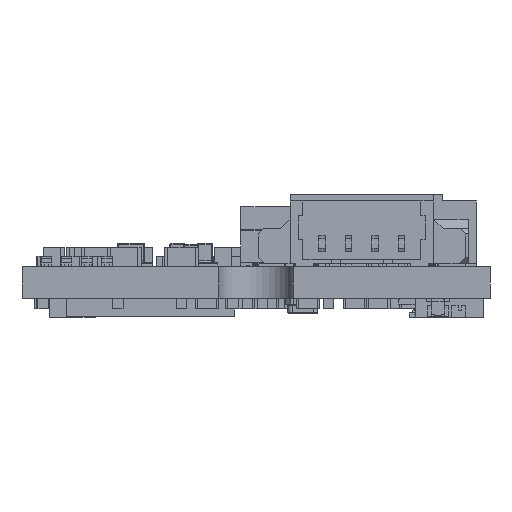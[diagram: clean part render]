
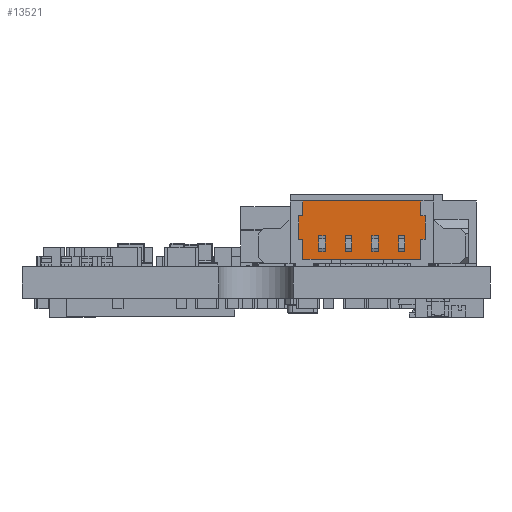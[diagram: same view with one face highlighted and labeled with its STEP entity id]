
A CAD part, front view. The second image highlights one B-rep face of the part: STEP entity #13521.
In plain terms, the highlighted planar face has unit normal (0, -1, 0).
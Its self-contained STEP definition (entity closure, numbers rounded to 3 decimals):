
#13521 = ADVANCED_FACE('',(#13522,#13556,#13590,#13688,#13722),#13756,
  .T.);
#13522 = FACE_BOUND('',#13523,.T.);
#13523 = EDGE_LOOP('',(#13524,#13534,#13542,#13550));
#13524 = ORIENTED_EDGE('',*,*,#13525,.T.);
#13525 = EDGE_CURVE('',#13526,#13528,#13530,.T.);
#13526 = VERTEX_POINT('',#13527);
#13527 = CARTESIAN_POINT('',(0.775,0.9,-0.975));
#13528 = VERTEX_POINT('',#13529);
#13529 = CARTESIAN_POINT('',(0.475,0.9,-0.975));
#13530 = LINE('',#13531,#13532);
#13531 = CARTESIAN_POINT('',(0.775,0.9,-0.975));
#13532 = VECTOR('',#13533,1.);
#13533 = DIRECTION('',(-1.,0.,0.));
#13534 = ORIENTED_EDGE('',*,*,#13535,.T.);
#13535 = EDGE_CURVE('',#13528,#13536,#13538,.T.);
#13536 = VERTEX_POINT('',#13537);
#13537 = CARTESIAN_POINT('',(0.475,0.9,-0.225));
#13538 = LINE('',#13539,#13540);
#13539 = CARTESIAN_POINT('',(0.475,0.9,-0.975));
#13540 = VECTOR('',#13541,1.);
#13541 = DIRECTION('',(0.,0.,1.));
#13542 = ORIENTED_EDGE('',*,*,#13543,.T.);
#13543 = EDGE_CURVE('',#13536,#13544,#13546,.T.);
#13544 = VERTEX_POINT('',#13545);
#13545 = CARTESIAN_POINT('',(0.775,0.9,-0.225));
#13546 = LINE('',#13547,#13548);
#13547 = CARTESIAN_POINT('',(0.475,0.9,-0.225));
#13548 = VECTOR('',#13549,1.);
#13549 = DIRECTION('',(1.,0.,0.));
#13550 = ORIENTED_EDGE('',*,*,#13551,.T.);
#13551 = EDGE_CURVE('',#13544,#13526,#13552,.T.);
#13552 = LINE('',#13553,#13554);
#13553 = CARTESIAN_POINT('',(0.775,0.9,-0.225));
#13554 = VECTOR('',#13555,1.);
#13555 = DIRECTION('',(0.,0.,-1.));
#13556 = FACE_BOUND('',#13557,.T.);
#13557 = EDGE_LOOP('',(#13558,#13568,#13576,#13584));
#13558 = ORIENTED_EDGE('',*,*,#13559,.T.);
#13559 = EDGE_CURVE('',#13560,#13562,#13564,.T.);
#13560 = VERTEX_POINT('',#13561);
#13561 = CARTESIAN_POINT('',(-1.725,0.9,-0.975));
#13562 = VERTEX_POINT('',#13563);
#13563 = CARTESIAN_POINT('',(-2.025,0.9,-0.975));
#13564 = LINE('',#13565,#13566);
#13565 = CARTESIAN_POINT('',(-1.725,0.9,-0.975));
#13566 = VECTOR('',#13567,1.);
#13567 = DIRECTION('',(-1.,0.,0.));
#13568 = ORIENTED_EDGE('',*,*,#13569,.T.);
#13569 = EDGE_CURVE('',#13562,#13570,#13572,.T.);
#13570 = VERTEX_POINT('',#13571);
#13571 = CARTESIAN_POINT('',(-2.025,0.9,-0.225));
#13572 = LINE('',#13573,#13574);
#13573 = CARTESIAN_POINT('',(-2.025,0.9,-0.975));
#13574 = VECTOR('',#13575,1.);
#13575 = DIRECTION('',(0.,0.,1.));
#13576 = ORIENTED_EDGE('',*,*,#13577,.T.);
#13577 = EDGE_CURVE('',#13570,#13578,#13580,.T.);
#13578 = VERTEX_POINT('',#13579);
#13579 = CARTESIAN_POINT('',(-1.725,0.9,-0.225));
#13580 = LINE('',#13581,#13582);
#13581 = CARTESIAN_POINT('',(-2.025,0.9,-0.225));
#13582 = VECTOR('',#13583,1.);
#13583 = DIRECTION('',(1.,0.,0.));
#13584 = ORIENTED_EDGE('',*,*,#13585,.T.);
#13585 = EDGE_CURVE('',#13578,#13560,#13586,.T.);
#13586 = LINE('',#13587,#13588);
#13587 = CARTESIAN_POINT('',(-1.725,0.9,-0.225));
#13588 = VECTOR('',#13589,1.);
#13589 = DIRECTION('',(0.,0.,-1.));
#13590 = FACE_BOUND('',#13591,.T.);
#13591 = EDGE_LOOP('',(#13592,#13602,#13610,#13618,#13626,#13634,#13642,
    #13650,#13658,#13666,#13674,#13682));
#13592 = ORIENTED_EDGE('',*,*,#13593,.T.);
#13593 = EDGE_CURVE('',#13594,#13596,#13598,.T.);
#13594 = VERTEX_POINT('',#13595);
#13595 = CARTESIAN_POINT('',(2.775,0.9,1.4));
#13596 = VERTEX_POINT('',#13597);
#13597 = CARTESIAN_POINT('',(-2.775,0.9,1.4));
#13598 = LINE('',#13599,#13600);
#13599 = CARTESIAN_POINT('',(2.775,0.9,1.4));
#13600 = VECTOR('',#13601,1.);
#13601 = DIRECTION('',(-1.,0.,0.));
#13602 = ORIENTED_EDGE('',*,*,#13603,.T.);
#13603 = EDGE_CURVE('',#13596,#13604,#13606,.T.);
#13604 = VERTEX_POINT('',#13605);
#13605 = CARTESIAN_POINT('',(-2.775,0.9,0.7));
#13606 = LINE('',#13607,#13608);
#13607 = CARTESIAN_POINT('',(-2.775,0.9,1.4));
#13608 = VECTOR('',#13609,1.);
#13609 = DIRECTION('',(0.,0.,-1.));
#13610 = ORIENTED_EDGE('',*,*,#13611,.T.);
#13611 = EDGE_CURVE('',#13604,#13612,#13614,.T.);
#13612 = VERTEX_POINT('',#13613);
#13613 = CARTESIAN_POINT('',(-2.975,0.9,0.7));
#13614 = LINE('',#13615,#13616);
#13615 = CARTESIAN_POINT('',(-2.775,0.9,0.7));
#13616 = VECTOR('',#13617,1.);
#13617 = DIRECTION('',(-1.,0.,0.));
#13618 = ORIENTED_EDGE('',*,*,#13619,.T.);
#13619 = EDGE_CURVE('',#13612,#13620,#13622,.T.);
#13620 = VERTEX_POINT('',#13621);
#13621 = CARTESIAN_POINT('',(-2.975,0.9,-0.4));
#13622 = LINE('',#13623,#13624);
#13623 = CARTESIAN_POINT('',(-2.975,0.9,0.7));
#13624 = VECTOR('',#13625,1.);
#13625 = DIRECTION('',(0.,0.,-1.));
#13626 = ORIENTED_EDGE('',*,*,#13627,.T.);
#13627 = EDGE_CURVE('',#13620,#13628,#13630,.T.);
#13628 = VERTEX_POINT('',#13629);
#13629 = CARTESIAN_POINT('',(-2.775,0.9,-0.4));
#13630 = LINE('',#13631,#13632);
#13631 = CARTESIAN_POINT('',(-2.975,0.9,-0.4));
#13632 = VECTOR('',#13633,1.);
#13633 = DIRECTION('',(1.,0.,0.));
#13634 = ORIENTED_EDGE('',*,*,#13635,.T.);
#13635 = EDGE_CURVE('',#13628,#13636,#13638,.T.);
#13636 = VERTEX_POINT('',#13637);
#13637 = CARTESIAN_POINT('',(-2.775,0.9,-1.35));
#13638 = LINE('',#13639,#13640);
#13639 = CARTESIAN_POINT('',(-2.775,0.9,-0.4));
#13640 = VECTOR('',#13641,1.);
#13641 = DIRECTION('',(0.,0.,-1.));
#13642 = ORIENTED_EDGE('',*,*,#13643,.T.);
#13643 = EDGE_CURVE('',#13636,#13644,#13646,.T.);
#13644 = VERTEX_POINT('',#13645);
#13645 = CARTESIAN_POINT('',(2.775,0.9,-1.35));
#13646 = LINE('',#13647,#13648);
#13647 = CARTESIAN_POINT('',(-2.775,0.9,-1.35));
#13648 = VECTOR('',#13649,1.);
#13649 = DIRECTION('',(1.,0.,0.));
#13650 = ORIENTED_EDGE('',*,*,#13651,.T.);
#13651 = EDGE_CURVE('',#13644,#13652,#13654,.T.);
#13652 = VERTEX_POINT('',#13653);
#13653 = CARTESIAN_POINT('',(2.775,0.9,-0.4));
#13654 = LINE('',#13655,#13656);
#13655 = CARTESIAN_POINT('',(2.775,0.9,-1.35));
#13656 = VECTOR('',#13657,1.);
#13657 = DIRECTION('',(0.,0.,1.));
#13658 = ORIENTED_EDGE('',*,*,#13659,.T.);
#13659 = EDGE_CURVE('',#13652,#13660,#13662,.T.);
#13660 = VERTEX_POINT('',#13661);
#13661 = CARTESIAN_POINT('',(2.975,0.9,-0.4));
#13662 = LINE('',#13663,#13664);
#13663 = CARTESIAN_POINT('',(2.775,0.9,-0.4));
#13664 = VECTOR('',#13665,1.);
#13665 = DIRECTION('',(1.,0.,0.));
#13666 = ORIENTED_EDGE('',*,*,#13667,.T.);
#13667 = EDGE_CURVE('',#13660,#13668,#13670,.T.);
#13668 = VERTEX_POINT('',#13669);
#13669 = CARTESIAN_POINT('',(2.975,0.9,0.7));
#13670 = LINE('',#13671,#13672);
#13671 = CARTESIAN_POINT('',(2.975,0.9,-0.4));
#13672 = VECTOR('',#13673,1.);
#13673 = DIRECTION('',(0.,0.,1.));
#13674 = ORIENTED_EDGE('',*,*,#13675,.T.);
#13675 = EDGE_CURVE('',#13668,#13676,#13678,.T.);
#13676 = VERTEX_POINT('',#13677);
#13677 = CARTESIAN_POINT('',(2.775,0.9,0.7));
#13678 = LINE('',#13679,#13680);
#13679 = CARTESIAN_POINT('',(2.975,0.9,0.7));
#13680 = VECTOR('',#13681,1.);
#13681 = DIRECTION('',(-1.,0.,0.));
#13682 = ORIENTED_EDGE('',*,*,#13683,.T.);
#13683 = EDGE_CURVE('',#13676,#13594,#13684,.T.);
#13684 = LINE('',#13685,#13686);
#13685 = CARTESIAN_POINT('',(2.775,0.9,0.7));
#13686 = VECTOR('',#13687,1.);
#13687 = DIRECTION('',(0.,0.,1.));
#13688 = FACE_BOUND('',#13689,.T.);
#13689 = EDGE_LOOP('',(#13690,#13700,#13708,#13716));
#13690 = ORIENTED_EDGE('',*,*,#13691,.T.);
#13691 = EDGE_CURVE('',#13692,#13694,#13696,.T.);
#13692 = VERTEX_POINT('',#13693);
#13693 = CARTESIAN_POINT('',(-0.475,0.9,-0.975));
#13694 = VERTEX_POINT('',#13695);
#13695 = CARTESIAN_POINT('',(-0.775,0.9,-0.975));
#13696 = LINE('',#13697,#13698);
#13697 = CARTESIAN_POINT('',(-0.475,0.9,-0.975));
#13698 = VECTOR('',#13699,1.);
#13699 = DIRECTION('',(-1.,0.,0.));
#13700 = ORIENTED_EDGE('',*,*,#13701,.T.);
#13701 = EDGE_CURVE('',#13694,#13702,#13704,.T.);
#13702 = VERTEX_POINT('',#13703);
#13703 = CARTESIAN_POINT('',(-0.775,0.9,-0.225));
#13704 = LINE('',#13705,#13706);
#13705 = CARTESIAN_POINT('',(-0.775,0.9,-0.975));
#13706 = VECTOR('',#13707,1.);
#13707 = DIRECTION('',(0.,0.,1.));
#13708 = ORIENTED_EDGE('',*,*,#13709,.T.);
#13709 = EDGE_CURVE('',#13702,#13710,#13712,.T.);
#13710 = VERTEX_POINT('',#13711);
#13711 = CARTESIAN_POINT('',(-0.475,0.9,-0.225));
#13712 = LINE('',#13713,#13714);
#13713 = CARTESIAN_POINT('',(-0.775,0.9,-0.225));
#13714 = VECTOR('',#13715,1.);
#13715 = DIRECTION('',(1.,0.,0.));
#13716 = ORIENTED_EDGE('',*,*,#13717,.T.);
#13717 = EDGE_CURVE('',#13710,#13692,#13718,.T.);
#13718 = LINE('',#13719,#13720);
#13719 = CARTESIAN_POINT('',(-0.475,0.9,-0.225));
#13720 = VECTOR('',#13721,1.);
#13721 = DIRECTION('',(0.,0.,-1.));
#13722 = FACE_BOUND('',#13723,.T.);
#13723 = EDGE_LOOP('',(#13724,#13734,#13742,#13750));
#13724 = ORIENTED_EDGE('',*,*,#13725,.T.);
#13725 = EDGE_CURVE('',#13726,#13728,#13730,.T.);
#13726 = VERTEX_POINT('',#13727);
#13727 = CARTESIAN_POINT('',(2.025,0.9,-0.975));
#13728 = VERTEX_POINT('',#13729);
#13729 = CARTESIAN_POINT('',(1.725,0.9,-0.975));
#13730 = LINE('',#13731,#13732);
#13731 = CARTESIAN_POINT('',(2.025,0.9,-0.975));
#13732 = VECTOR('',#13733,1.);
#13733 = DIRECTION('',(-1.,0.,0.));
#13734 = ORIENTED_EDGE('',*,*,#13735,.T.);
#13735 = EDGE_CURVE('',#13728,#13736,#13738,.T.);
#13736 = VERTEX_POINT('',#13737);
#13737 = CARTESIAN_POINT('',(1.725,0.9,-0.225));
#13738 = LINE('',#13739,#13740);
#13739 = CARTESIAN_POINT('',(1.725,0.9,-0.975));
#13740 = VECTOR('',#13741,1.);
#13741 = DIRECTION('',(0.,0.,1.));
#13742 = ORIENTED_EDGE('',*,*,#13743,.T.);
#13743 = EDGE_CURVE('',#13736,#13744,#13746,.T.);
#13744 = VERTEX_POINT('',#13745);
#13745 = CARTESIAN_POINT('',(2.025,0.9,-0.225));
#13746 = LINE('',#13747,#13748);
#13747 = CARTESIAN_POINT('',(1.725,0.9,-0.225));
#13748 = VECTOR('',#13749,1.);
#13749 = DIRECTION('',(1.,0.,0.));
#13750 = ORIENTED_EDGE('',*,*,#13751,.T.);
#13751 = EDGE_CURVE('',#13744,#13726,#13752,.T.);
#13752 = LINE('',#13753,#13754);
#13753 = CARTESIAN_POINT('',(2.025,0.9,-0.225));
#13754 = VECTOR('',#13755,1.);
#13755 = DIRECTION('',(0.,0.,-1.));
#13756 = PLANE('',#13757);
#13757 = AXIS2_PLACEMENT_3D('',#13758,#13759,#13760);
#13758 = CARTESIAN_POINT('',(0.,0.9,0.));
#13759 = DIRECTION('',(0.,-1.,0.));
#13760 = DIRECTION('',(0.,0.,-1.));
